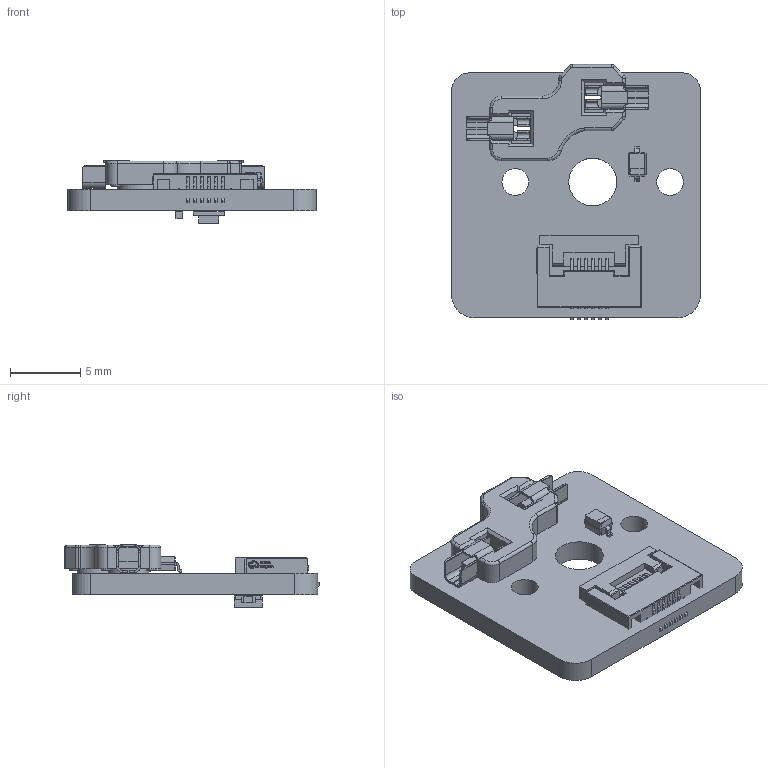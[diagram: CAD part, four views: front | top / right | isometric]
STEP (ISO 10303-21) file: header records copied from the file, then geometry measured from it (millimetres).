
FILE_DESCRIPTION(('KiCad electronic assembly'),'2;1');
FILE_NAME('FPC-assembly.step','2026-10-01T15:10:08',('Pcbnew'),('Kicad') ,'Open CASCADE STEP processor 7.9','KiCad to STEP converter','Unknown' );
FILE_SCHEMA(('AUTOMOTIVE_DESIGN { 1 0 10303 214 1 1 1 1 }'));
Length unit declared in the file: millimetre
Products named in the file (19): FPC-assembly 1; D_SOD-323; FPC-SMD_6P-P0.50_HC-FPC-0.5-6P-FH20; HS_CPG135001S30_Choc; pin; socket; LED_WS2812B-2020_2.2x2.0x0.84mm; substrate; optical encapsulation; solder terminal; IC depiction; red die depiction; green die depiction; blue die depiction; C_0402_1005Metric; AdafruitNeoKeyChocSocketBreakout_PCB
Assembly tree (19 placements, depth 3):
  FPC-assembly 1
    D_SOD-323
    FPC-SMD_6P-P0.50_HC-FPC-0.5-6P-FH20
    HS_CPG135001S30_Choc
      pin  x2
      socket
    LED_WS2812B-2020_2.2x2.0x0.84mm
      substrate
      optical encapsulation
      solder terminal
      solder terminal
      solder terminal
      solder terminal
      IC depiction
      red die depiction
      green die depiction
      blue die depiction
    C_0402_1005Metric
    AdafruitNeoKeyChocSocketBreakout_PCB
Bounding box: 17.67 x 18.12 x 4.48 mm (x, y, z)
Volume: 548.3 mm3; surface area: 1321.8 mm2
Topology: 26 solids, 26 shells, 1042 faces, 2738 edges, 1761 vertices
Faces by surface type: plane 698, cylinder 166, bspline 158, torus 10, cone 10
Full cylindrical faces by diameter (mm): 1.9 x2, 2.9 x2, 3 x2, 3.4 x1
Entity records: 34858 total; most frequent: CARTESIAN_POINT 6997, ORIENTED_EDGE 5004, DIRECTION 4179, EDGE_CURVE 2502, LINE 1921, VECTOR 1921, VERTEX_POINT 1615, AXIS2_PLACEMENT_3D 1129
